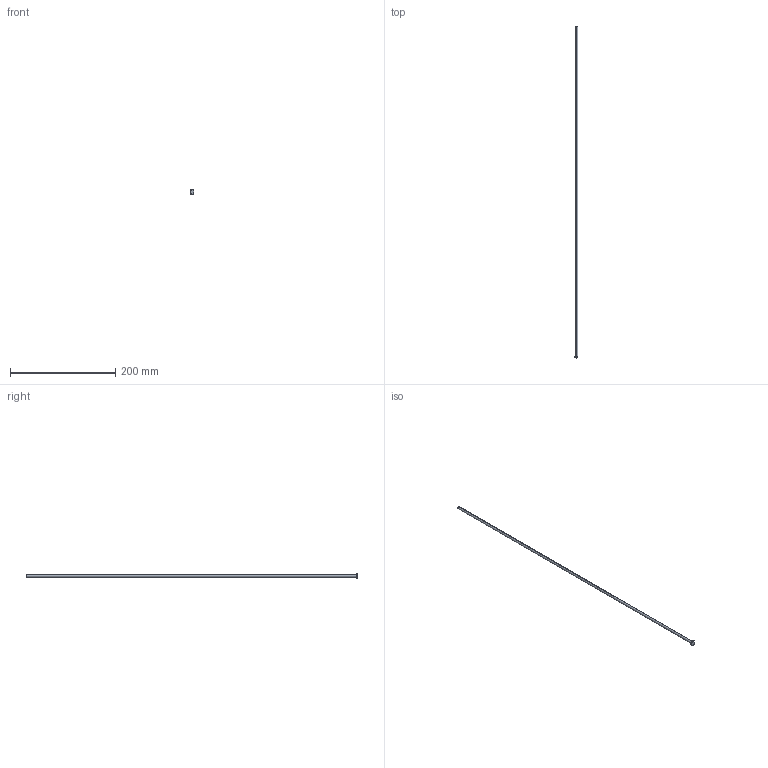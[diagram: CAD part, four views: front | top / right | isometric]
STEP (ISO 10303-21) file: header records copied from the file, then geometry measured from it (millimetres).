
FILE_DESCRIPTION (( 'STEP AP203' ), '1' );
FILE_NAME ('EPD05L630-K.step', '2022-04-08T18:50:53', ( 'Microsoft Corporation' ), ( 'MS' ), 'SwSTEP 2.0', 'SolidWorks 2019', '' );
FILE_SCHEMA (( 'CONFIG_CONTROL_DESIGN' ));
Length unit declared in the file: millimetre
Products named in the file (1): EPD05L630-K
Bounding box: 7.5 x 630 x 10 mm (x, y, z)
Volume: 12500 mm3; surface area: 10057.8 mm2
Topology: 1 solids, 1 shells, 18 faces, 41 edges, 25 vertices
Faces by surface type: cone 6, cylinder 5, plane 4, torus 3
Entity records: 598 total; most frequent: CARTESIAN_POINT 107, DIRECTION 95, ORIENTED_EDGE 82, EDGE_CURVE 41, AXIS2_PLACEMENT_3D 41, VERTEX_POINT 25, CIRCLE 22, FACE_OUTER_BOUND 18
